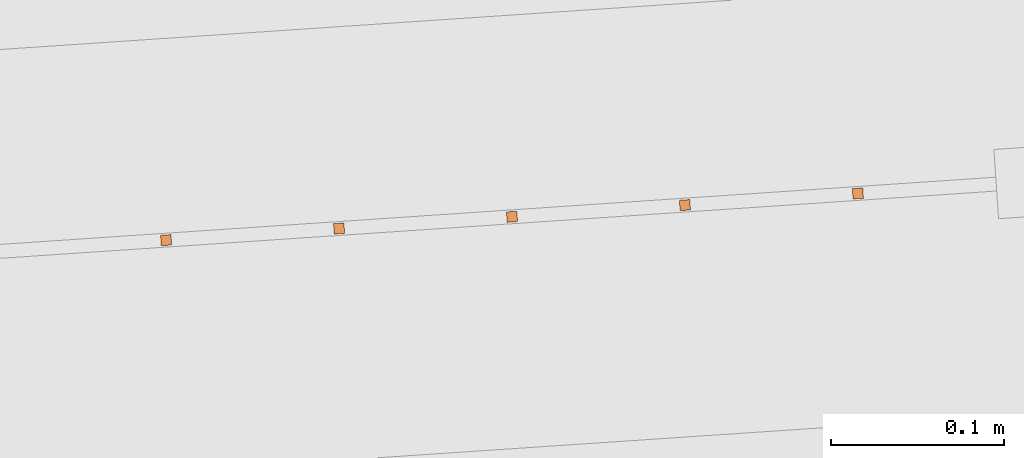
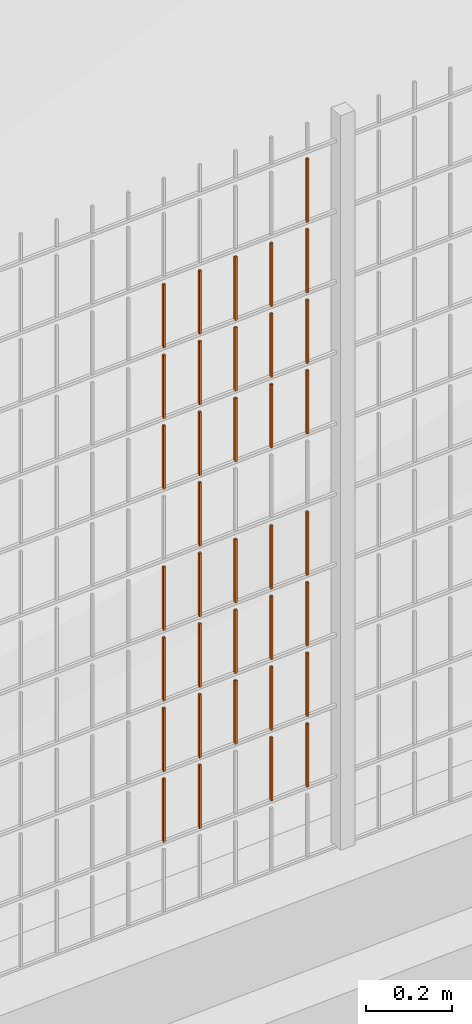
# One storey, part 89 of 1809: 36 proxies, 1 element without a shape of its own.
"""IFC2X3 building model written with IfcOpenShell, lengths in millimetres."""

from ifc_helpers import new_model, entity, si_unit, converted_unit, derived_unit, money_unit, direction, frame, origin_with_axes, place, context, subcontext, project, spatial, faceted_brep, source, transform, mapped, material, type_object, element, aggregate, save


model = new_model("IFC2X3")

# Units and contexts
model_context = context("Model", 3, precision=0.01, world=origin_with_axes(), true_north=direction((0.0, 1.0)))
body_context = subcontext(model_context, "Body", "Model", "MODEL_VIEW")
ifc_project = project(units=[si_unit("LENGTHUNIT", "METRE", prefix="MILLI"), si_unit("AREAUNIT", "SQUARE_METRE"), si_unit("VOLUMEUNIT", "CUBIC_METRE"), converted_unit("PLANEANGLEUNIT", "DEGREE", entity("IfcPlaneAngleMeasure", 0.0174532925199), si_unit("PLANEANGLEUNIT", "RADIAN"), dimensions=[0, 0, 0, 0, 0, 0, 0]), si_unit("SOLIDANGLEUNIT", "STERADIAN"), money_unit("EUR"), converted_unit("TIMEUNIT", "Year", entity("IfcTimeMeasure", 31556926.0), si_unit("TIMEUNIT", "SECOND"), dimensions=[0, 0, 1, 0, 0, 0, 0]), si_unit("MASSUNIT", "GRAM", prefix="KILO"), si_unit("THERMODYNAMICTEMPERATUREUNIT", "DEGREE_CELSIUS"), si_unit("LUMINOUSINTENSITYUNIT", "LUMEN"), si_unit("ENERGYUNIT", "JOULE", prefix="MEGA"), derived_unit("THERMALCONDUCTANCEUNIT", [(si_unit("POWERUNIT", "WATT"), 1), (si_unit("LENGTHUNIT", "METRE"), -1), (si_unit("THERMODYNAMICTEMPERATUREUNIT", "KELVIN"), -1)]), derived_unit("SPECIFICHEATCAPACITYUNIT", [(si_unit("ENERGYUNIT", "JOULE"), 1), (si_unit("MASSUNIT", "GRAM", prefix="KILO"), -1), (si_unit("THERMODYNAMICTEMPERATUREUNIT", "KELVIN"), -1)]), derived_unit("MASSDENSITYUNIT", [(si_unit("MASSUNIT", "GRAM", prefix="KILO"), 1), (si_unit("VOLUMEUNIT", "CUBIC_METRE"), -1)])], contexts=[model_context])

# Site, building, storey
site_placement = place(None, origin_with_axes())
site = spatial("IfcSite", under=ifc_project, at=site_placement, Name="Politse- ja Piirivalveameti ning Päästeameti ühishoone", CompositionType="ELEMENT")
building_placement = place(site_placement, origin_with_axes())
building = spatial("IfcBuilding", under=site, at=building_placement, Name="Politse- ja Piirivalveameti ning Päästeameti ühishoone", CompositionType="ELEMENT")
storey_placement = place(building_placement, origin_with_axes())
storey = spatial("IfcBuildingStorey", under=building, at=storey_placement, Name="Esimene korrus", CompositionType="ELEMENT", Elevation=0.0)

# Proxies
building_element_proxy_type_1 = type_object("IfcBuildingElementProxyType", Name="Railing Type", PredefinedType="NOTDEFINED")
proxy_1_placement = place(storey_placement, frame((89252.001212, -29183.4766571, 203.661247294), z_axis=(0.0, 0.0, 1.0), x_axis=(1.0, 0.0, 0.0)))
proxy_1 = element("IfcBuildingElementProxy", 1, at=proxy_1_placement, inside=storey, type_object=building_element_proxy_type_1, Name="PIIRDEAED")
ifc_material = material(Name="ET-03_Raud")
building_element_proxy_type_2 = type_object("IfcBuildingElementProxyType", Name="IfcBuildingElementProxy", PredefinedType="NOTDEFINED")
shared_shape_1 = source(origin_with_axes(), body_context, "Body", "Brep", [
    faceted_brep([(3.0, 3.0, -0.000752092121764), (-3.0, 3.0, -0.000752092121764), (-3.0, 3.0, 179.99926046), (3.0, 3.0, 179.99926046), (3.0, -3.0, 0.000752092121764), (-3.0, -3.0, 0.000752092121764), (-3.0, -3.0, 180.000764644), (3.0, -3.0, 180.000764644)], [[[0, 1, 2, 3]], [[0, 4, 5, 1]], [[1, 5, 6, 2]], [[3, 2, 6, 7]], [[4, 0, 3, 7]], [[5, 4, 7, 6]]]),
])
proxy_2_placement = place(proxy_1_placement, frame((-99699.5076655, -24032.100252, 1802.18302725), z_axis=(0.0, 0.0, 1.0), x_axis=(1.0, 0.0, 0.0)))
proxy_2 = element("IfcBuildingElementProxy", 2, at=proxy_2_placement, type_object=building_element_proxy_type_2, material=ifc_material, Name="BALUSTER - 001", context=body_context, shape_type="MappedRepresentation", body=[
    mapped(shared_shape_1, transform((0.0, 0.0, 0.0), x_axis=(-0.0673926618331, 0.997726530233, 0.0), y_axis=(-0.997726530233, -0.0673926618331, 0.0), z_axis=(0.0, 0.0, 1.0))),
])
shared_shape_2 = source(origin_with_axes(), body_context, "Body", "Brep", [
    faceted_brep([(3.0, 3.0, -0.000752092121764), (-3.0, 3.0, -0.000752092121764), (-3.0, 3.0, 179.99926046), (3.0, 3.0, 179.99926046), (3.0, -3.0, 0.000752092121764), (-3.0, -3.0, 0.000752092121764), (-3.0, -3.0, 180.000764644), (3.0, -3.0, 180.000764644)], [[[0, 1, 2, 3]], [[0, 4, 5, 1]], [[1, 5, 6, 2]], [[3, 2, 6, 7]], [[4, 0, 3, 7]], [[5, 4, 7, 6]]]),
])
proxy_3_placement = place(proxy_1_placement, frame((-100098.598278, -24059.0573168, 802.082748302), z_axis=(0.0, 0.0, 1.0), x_axis=(1.0, 0.0, 0.0)))
proxy_3 = element("IfcBuildingElementProxy", 3, at=proxy_3_placement, type_object=building_element_proxy_type_2, material=ifc_material, Name="BALUSTER - 001", context=body_context, shape_type="MappedRepresentation", body=[
    mapped(shared_shape_2, transform((0.0, 0.0, 0.0), x_axis=(-0.0673926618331, 0.997726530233, 0.0), y_axis=(-0.997726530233, -0.0673926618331, 0.0), z_axis=(0.0, 0.0, 1.0))),
])
proxy_4_placement = place(proxy_1_placement, frame((-99699.5076655, -24032.100252, 1202.18302725), z_axis=(0.0, 0.0, 1.0), x_axis=(1.0, 0.0, 0.0)))
proxy_4 = element("IfcBuildingElementProxy", 4, at=proxy_4_placement, type_object=building_element_proxy_type_2, material=ifc_material, Name="BALUSTER - 001", context=body_context, shape_type="MappedRepresentation", body=[
    mapped(shared_shape_2, transform((0.0, 0.0, 0.0), x_axis=(-0.0673926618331, 0.997726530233, 0.0), y_axis=(-0.997726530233, -0.0673926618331, 0.0), z_axis=(0.0, 0.0, 1.0))),
])
shared_shape_3 = source(origin_with_axes(), body_context, "Body", "Brep", [
    faceted_brep([(3.0, 3.0, -0.000752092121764), (-3.0, 3.0, -0.000752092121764), (-3.0, 3.0, 179.99926046), (3.0, 3.0, 179.99926046), (3.0, -3.0, 0.000752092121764), (-3.0, -3.0, 0.000752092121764), (-3.0, -3.0, 180.000764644), (3.0, -3.0, 180.000764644)], [[[0, 1, 2, 3]], [[0, 4, 5, 1]], [[1, 5, 6, 2]], [[3, 2, 6, 7]], [[4, 0, 3, 7]], [[5, 4, 7, 6]]]),
])
proxy_5_placement = place(proxy_1_placement, frame((-100098.598278, -24059.0573168, 402.082748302), z_axis=(0.0, 0.0, 1.0), x_axis=(1.0, 0.0, 0.0)))
proxy_5 = element("IfcBuildingElementProxy", 5, at=proxy_5_placement, type_object=building_element_proxy_type_2, material=ifc_material, Name="BALUSTER - 001", context=body_context, shape_type="MappedRepresentation", body=[
    mapped(shared_shape_3, transform((0.0, 0.0, 0.0), x_axis=(-0.0673926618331, 0.997726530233, 0.0), y_axis=(-0.997726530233, -0.0673926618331, 0.0), z_axis=(0.0, 0.0, 1.0))),
])
shared_shape_4 = source(origin_with_axes(), body_context, "Body", "Brep", [
    faceted_brep([(3.0, 3.0, -0.000752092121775), (-3.0, 3.0, -0.000752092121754), (-3.0, 3.0, 179.99926046), (3.0, 3.0, 179.99926046), (3.0, -3.0, 0.000752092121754), (-3.0, -3.0, 0.000752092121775), (-3.0, -3.0, 180.000764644), (3.0, -3.0, 180.000764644)], [[[0, 1, 2, 3]], [[0, 4, 5, 1]], [[1, 5, 6, 2]], [[3, 2, 6, 7]], [[4, 0, 3, 7]], [[5, 4, 7, 6]]]),
])
proxy_6_placement = place(proxy_1_placement, frame((-99799.2803185, -24038.8395182, 202.157957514), z_axis=(0.0, 0.0, 1.0), x_axis=(1.0, 0.0, 0.0)))
proxy_6 = element("IfcBuildingElementProxy", 6, at=proxy_6_placement, type_object=building_element_proxy_type_2, material=ifc_material, Name="BALUSTER - 001", context=body_context, shape_type="MappedRepresentation", body=[
    mapped(shared_shape_4, transform((0.0, 0.0, 0.0), x_axis=(-0.0673926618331, 0.997726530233, 0.0), y_axis=(-0.997726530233, -0.0673926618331, 0.0), z_axis=(0.0, 0.0, 1.0))),
])
proxy_7_placement = place(proxy_1_placement, frame((-99799.2803185, -24038.8395182, 402.157957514), z_axis=(0.0, 0.0, 1.0), x_axis=(1.0, 0.0, 0.0)))
proxy_7 = element("IfcBuildingElementProxy", 7, at=proxy_7_placement, type_object=building_element_proxy_type_2, material=ifc_material, Name="BALUSTER - 001", context=body_context, shape_type="MappedRepresentation", body=[
    mapped(shared_shape_4, transform((0.0, 0.0, 0.0), x_axis=(-0.0673926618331, 0.997726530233, 0.0), y_axis=(-0.997726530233, -0.0673926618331, 0.0), z_axis=(0.0, 0.0, 1.0))),
])
shared_shape_5 = source(origin_with_axes(), body_context, "Body", "Brep", [
    faceted_brep([(3.0, 3.0, -0.000752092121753), (-3.0, 3.0, -0.000752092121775), (-3.0, 3.0, 179.99926046), (3.0, 3.0, 179.99926046), (3.0, -3.0, 0.000752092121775), (-3.0, -3.0, 0.000752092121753), (-3.0, -3.0, 180.000764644), (3.0, -3.0, 180.000764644)], [[[0, 1, 2, 3]], [[0, 4, 5, 1]], [[1, 5, 6, 2]], [[3, 2, 6, 7]], [[4, 0, 3, 7]], [[5, 4, 7, 6]]]),
])
proxy_8_placement = place(proxy_1_placement, frame((-99998.8256245, -24052.3180506, 202.10781804), z_axis=(0.0, 0.0, 1.0), x_axis=(1.0, 0.0, 0.0)))
proxy_8 = element("IfcBuildingElementProxy", 8, at=proxy_8_placement, type_object=building_element_proxy_type_2, material=ifc_material, Name="BALUSTER - 001", context=body_context, shape_type="MappedRepresentation", body=[
    mapped(shared_shape_5, transform((0.0, 0.0, 0.0), x_axis=(-0.0673926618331, 0.997726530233, 0.0), y_axis=(-0.997726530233, -0.0673926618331, 0.0), z_axis=(0.0, 0.0, 1.0))),
])
shared_shape_6 = source(origin_with_axes(), body_context, "Body", "Brep", [
    faceted_brep([(3.0, 3.0, -0.000752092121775), (-3.0, 3.0, -0.000752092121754), (-3.0, 3.0, 179.99926046), (3.0, 3.0, 179.99926046), (3.0, -3.0, 0.000752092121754), (-3.0, -3.0, 0.000752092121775), (-3.0, -3.0, 180.000764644), (3.0, -3.0, 180.000764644)], [[[0, 1, 2, 3]], [[0, 4, 5, 1]], [[1, 5, 6, 2]], [[3, 2, 6, 7]], [[4, 0, 3, 7]], [[5, 4, 7, 6]]]),
])
proxy_9_placement = place(proxy_1_placement, frame((-99799.2803185, -24038.8395182, 602.157957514), z_axis=(0.0, 0.0, 1.0), x_axis=(1.0, 0.0, 0.0)))
proxy_9 = element("IfcBuildingElementProxy", 9, at=proxy_9_placement, type_object=building_element_proxy_type_2, material=ifc_material, Name="BALUSTER - 001", context=body_context, shape_type="MappedRepresentation", body=[
    mapped(shared_shape_6, transform((0.0, 0.0, 0.0), x_axis=(-0.0673926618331, 0.997726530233, 0.0), y_axis=(-0.997726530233, -0.0673926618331, 0.0), z_axis=(0.0, 0.0, 1.0))),
])
shared_shape_7 = source(origin_with_axes(), body_context, "Body", "Brep", [
    faceted_brep([(3.0, 3.0, -0.000752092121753), (-3.0, 3.0, -0.000752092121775), (-3.0, 3.0, 179.99926046), (3.0, 3.0, 179.99926046), (3.0, -3.0, 0.000752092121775), (-3.0, -3.0, 0.000752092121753), (-3.0, -3.0, 180.000764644), (3.0, -3.0, 180.000764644)], [[[0, 1, 2, 3]], [[0, 4, 5, 1]], [[1, 5, 6, 2]], [[3, 2, 6, 7]], [[4, 0, 3, 7]], [[5, 4, 7, 6]]]),
])
proxy_10_placement = place(proxy_1_placement, frame((-99699.5076655, -24032.100252, 402.183027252), z_axis=(0.0, 0.0, 1.0), x_axis=(1.0, 0.0, 0.0)))
proxy_10 = element("IfcBuildingElementProxy", 10, at=proxy_10_placement, type_object=building_element_proxy_type_2, material=ifc_material, Name="BALUSTER - 001", context=body_context, shape_type="MappedRepresentation", body=[
    mapped(shared_shape_7, transform((0.0, 0.0, 0.0), x_axis=(-0.0673926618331, 0.997726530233, 0.0), y_axis=(-0.997726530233, -0.0673926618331, 0.0), z_axis=(0.0, 0.0, 1.0))),
])
shared_shape_8 = source(origin_with_axes(), body_context, "Body", "Brep", [
    faceted_brep([(3.0, 3.0, -0.000752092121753), (-3.0, 3.0, -0.000752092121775), (-3.0, 3.0, 179.99926046), (3.0, 3.0, 179.99926046), (3.0, -3.0, 0.000752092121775), (-3.0, -3.0, 0.000752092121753), (-3.0, -3.0, 180.000764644), (3.0, -3.0, 180.000764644)], [[[0, 1, 2, 3]], [[0, 4, 5, 1]], [[1, 5, 6, 2]], [[3, 2, 6, 7]], [[4, 0, 3, 7]], [[5, 4, 7, 6]]]),
])
proxy_11_placement = place(proxy_1_placement, frame((-99998.8256245, -24052.3180506, 802.10781804), z_axis=(0.0, 0.0, 1.0), x_axis=(1.0, 0.0, 0.0)))
proxy_11 = element("IfcBuildingElementProxy", 11, at=proxy_11_placement, type_object=building_element_proxy_type_2, material=ifc_material, Name="BALUSTER - 001", context=body_context, shape_type="MappedRepresentation", body=[
    mapped(shared_shape_8, transform((0.0, 0.0, 0.0), x_axis=(-0.0673926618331, 0.997726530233, 0.0), y_axis=(-0.997726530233, -0.0673926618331, 0.0), z_axis=(0.0, 0.0, 1.0))),
])
shared_shape_9 = source(origin_with_axes(), body_context, "Body", "Brep", [
    faceted_brep([(3.0, 3.0, -0.000752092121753), (-3.0, 3.0, -0.000752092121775), (-3.0, 3.0, 179.99926046), (3.0, 3.0, 179.99926046), (3.0, -3.0, 0.000752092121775), (-3.0, -3.0, 0.000752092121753), (-3.0, -3.0, 180.000764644), (3.0, -3.0, 180.000764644)], [[[0, 1, 2, 3]], [[0, 4, 5, 1]], [[1, 5, 6, 2]], [[3, 2, 6, 7]], [[4, 0, 3, 7]], [[5, 4, 7, 6]]]),
])
proxy_12_placement = place(proxy_1_placement, frame((-99699.5076655, -24032.100252, 802.183027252), z_axis=(0.0, 0.0, 1.0), x_axis=(1.0, 0.0, 0.0)))
proxy_12 = element("IfcBuildingElementProxy", 12, at=proxy_12_placement, type_object=building_element_proxy_type_2, material=ifc_material, Name="BALUSTER - 001", context=body_context, shape_type="MappedRepresentation", body=[
    mapped(shared_shape_9, transform((0.0, 0.0, 0.0), x_axis=(-0.0673926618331, 0.997726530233, 0.0), y_axis=(-0.997726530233, -0.0673926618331, 0.0), z_axis=(0.0, 0.0, 1.0))),
])
shared_shape_10 = source(origin_with_axes(), body_context, "Body", "Brep", [
    faceted_brep([(3.0, 3.0, -0.000752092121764), (-3.0, 3.0, -0.000752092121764), (-3.0, 3.0, 179.99926046), (3.0, 3.0, 179.99926046), (3.0, -3.0, 0.000752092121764), (-3.0, -3.0, 0.000752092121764), (-3.0, -3.0, 180.000764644), (3.0, -3.0, 180.000764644)], [[[0, 1, 2, 3]], [[0, 4, 5, 1]], [[1, 5, 6, 2]], [[3, 2, 6, 7]], [[4, 0, 3, 7]], [[5, 4, 7, 6]]]),
])
proxy_13_placement = place(proxy_1_placement, frame((-99699.5076655, -24032.100252, 1402.18302725), z_axis=(0.0, 0.0, 1.0), x_axis=(1.0, 0.0, 0.0)))
proxy_13 = element("IfcBuildingElementProxy", 13, at=proxy_13_placement, type_object=building_element_proxy_type_2, material=ifc_material, Name="BALUSTER - 001", context=body_context, shape_type="MappedRepresentation", body=[
    mapped(shared_shape_10, transform((0.0, 0.0, 0.0), x_axis=(-0.0673926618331, 0.997726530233, 0.0), y_axis=(-0.997726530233, -0.0673926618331, 0.0), z_axis=(0.0, 0.0, 1.0))),
])
proxy_14_placement = place(proxy_1_placement, frame((-99699.5076655, -24032.100252, 1602.18302725), z_axis=(0.0, 0.0, 1.0), x_axis=(1.0, 0.0, 0.0)))
proxy_14 = element("IfcBuildingElementProxy", 14, at=proxy_14_placement, type_object=building_element_proxy_type_2, material=ifc_material, Name="BALUSTER - 001", context=body_context, shape_type="MappedRepresentation", body=[
    mapped(shared_shape_10, transform((0.0, 0.0, 0.0), x_axis=(-0.0673926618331, 0.997726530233, 0.0), y_axis=(-0.997726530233, -0.0673926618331, 0.0), z_axis=(0.0, 0.0, 1.0))),
])
shared_shape_11 = source(origin_with_axes(), body_context, "Body", "Brep", [
    faceted_brep([(3.0, 3.0, -0.000752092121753), (-3.0, 3.0, -0.000752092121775), (-3.0, 3.0, 179.99926046), (3.0, 3.0, 179.99926046), (3.0, -3.0, 0.000752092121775), (-3.0, -3.0, 0.000752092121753), (-3.0, -3.0, 180.000764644), (3.0, -3.0, 180.000764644)], [[[0, 1, 2, 3]], [[0, 4, 5, 1]], [[1, 5, 6, 2]], [[3, 2, 6, 7]], [[4, 0, 3, 7]], [[5, 4, 7, 6]]]),
])
proxy_15_placement = place(proxy_1_placement, frame((-99998.8256245, -24052.3180506, 602.10781804), z_axis=(0.0, 0.0, 1.0), x_axis=(1.0, 0.0, 0.0)))
proxy_15 = element("IfcBuildingElementProxy", 15, at=proxy_15_placement, type_object=building_element_proxy_type_2, material=ifc_material, Name="BALUSTER - 001", context=body_context, shape_type="MappedRepresentation", body=[
    mapped(shared_shape_11, transform((0.0, 0.0, 0.0), x_axis=(-0.0673926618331, 0.997726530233, 0.0), y_axis=(-0.997726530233, -0.0673926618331, 0.0), z_axis=(0.0, 0.0, 1.0))),
])
shared_shape_12 = source(origin_with_axes(), body_context, "Body", "Brep", [
    faceted_brep([(3.0, 3.0, -0.000752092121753), (-3.0, 3.0, -0.000752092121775), (-3.0, 3.0, 179.99926046), (3.0, 3.0, 179.99926046), (3.0, -3.0, 0.000752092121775), (-3.0, -3.0, 0.000752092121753), (-3.0, -3.0, 180.000764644), (3.0, -3.0, 180.000764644)], [[[0, 1, 2, 3]], [[0, 4, 5, 1]], [[1, 5, 6, 2]], [[3, 2, 6, 7]], [[4, 0, 3, 7]], [[5, 4, 7, 6]]]),
])
proxy_16_placement = place(proxy_1_placement, frame((-99998.8256245, -24052.3180506, 1202.10781804), z_axis=(0.0, 0.0, 1.0), x_axis=(1.0, 0.0, 0.0)))
proxy_16 = element("IfcBuildingElementProxy", 16, at=proxy_16_placement, type_object=building_element_proxy_type_2, material=ifc_material, Name="BALUSTER - 001", context=body_context, shape_type="MappedRepresentation", body=[
    mapped(shared_shape_12, transform((0.0, 0.0, 0.0), x_axis=(-0.0673926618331, 0.997726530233, 0.0), y_axis=(-0.997726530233, -0.0673926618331, 0.0), z_axis=(0.0, 0.0, 1.0))),
])
shared_shape_13 = source(origin_with_axes(), body_context, "Body", "Brep", [
    faceted_brep([(3.0, 3.0, -0.000752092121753), (-3.0, 3.0, -0.000752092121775), (-3.0, 3.0, 179.99926046), (3.0, 3.0, 179.99926046), (3.0, -3.0, 0.000752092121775), (-3.0, -3.0, 0.000752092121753), (-3.0, -3.0, 180.000764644), (3.0, -3.0, 180.000764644)], [[[0, 1, 2, 3]], [[0, 4, 5, 1]], [[1, 5, 6, 2]], [[3, 2, 6, 7]], [[4, 0, 3, 7]], [[5, 4, 7, 6]]]),
])
proxy_17_placement = place(proxy_1_placement, frame((-99699.5076655, -24032.100252, 202.183027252), z_axis=(0.0, 0.0, 1.0), x_axis=(1.0, 0.0, 0.0)))
proxy_17 = element("IfcBuildingElementProxy", 17, at=proxy_17_placement, type_object=building_element_proxy_type_2, material=ifc_material, Name="BALUSTER - 001", context=body_context, shape_type="MappedRepresentation", body=[
    mapped(shared_shape_13, transform((0.0, 0.0, 0.0), x_axis=(-0.0673926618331, 0.997726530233, 0.0), y_axis=(-0.997726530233, -0.0673926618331, 0.0), z_axis=(0.0, 0.0, 1.0))),
])
proxy_18_placement = place(proxy_1_placement, frame((-99699.5076655, -24032.100252, 602.183027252), z_axis=(0.0, 0.0, 1.0), x_axis=(1.0, 0.0, 0.0)))
proxy_18 = element("IfcBuildingElementProxy", 18, at=proxy_18_placement, type_object=building_element_proxy_type_2, material=ifc_material, Name="BALUSTER - 001", context=body_context, shape_type="MappedRepresentation", body=[
    mapped(shared_shape_13, transform((0.0, 0.0, 0.0), x_axis=(-0.0673926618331, 0.997726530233, 0.0), y_axis=(-0.997726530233, -0.0673926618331, 0.0), z_axis=(0.0, 0.0, 1.0))),
])
shared_shape_14 = source(origin_with_axes(), body_context, "Body", "Brep", [
    faceted_brep([(3.0, 3.0, -0.000752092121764), (-3.0, 3.0, -0.000752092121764), (-3.0, 3.0, 179.99926046), (3.0, 3.0, 179.99926046), (3.0, -3.0, 0.000752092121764), (-3.0, -3.0, 0.000752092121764), (-3.0, -3.0, 180.000764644), (3.0, -3.0, 180.000764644)], [[[0, 1, 2, 3]], [[0, 4, 5, 1]], [[1, 5, 6, 2]], [[3, 2, 6, 7]], [[4, 0, 3, 7]], [[5, 4, 7, 6]]]),
])
proxy_19_placement = place(proxy_1_placement, frame((-100098.598278, -24059.0573168, 602.082748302), z_axis=(0.0, 0.0, 1.0), x_axis=(1.0, 0.0, 0.0)))
proxy_19 = element("IfcBuildingElementProxy", 19, at=proxy_19_placement, type_object=building_element_proxy_type_2, material=ifc_material, Name="BALUSTER - 001", context=body_context, shape_type="MappedRepresentation", body=[
    mapped(shared_shape_14, transform((0.0, 0.0, 0.0), x_axis=(-0.0673926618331, 0.997726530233, 0.0), y_axis=(-0.997726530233, -0.0673926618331, 0.0), z_axis=(0.0, 0.0, 1.0))),
])
shared_shape_15 = source(origin_with_axes(), body_context, "Body", "Brep", [
    faceted_brep([(3.0, 3.0, -0.000752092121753), (-3.0, 3.0, -0.000752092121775), (-3.0, 3.0, 179.99926046), (3.0, 3.0, 179.99926046), (3.0, -3.0, 0.000752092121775), (-3.0, -3.0, 0.000752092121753), (-3.0, -3.0, 180.000764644), (3.0, -3.0, 180.000764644)], [[[0, 1, 2, 3]], [[0, 4, 5, 1]], [[1, 5, 6, 2]], [[3, 2, 6, 7]], [[4, 0, 3, 7]], [[5, 4, 7, 6]]]),
])
proxy_20_placement = place(proxy_1_placement, frame((-99998.8256245, -24052.3180506, 1402.10781804), z_axis=(0.0, 0.0, 1.0), x_axis=(1.0, 0.0, 0.0)))
proxy_20 = element("IfcBuildingElementProxy", 20, at=proxy_20_placement, type_object=building_element_proxy_type_2, material=ifc_material, Name="BALUSTER - 001", context=body_context, shape_type="MappedRepresentation", body=[
    mapped(shared_shape_15, transform((0.0, 0.0, 0.0), x_axis=(-0.0673926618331, 0.997726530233, 0.0), y_axis=(-0.997726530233, -0.0673926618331, 0.0), z_axis=(0.0, 0.0, 1.0))),
])
proxy_21_placement = place(proxy_1_placement, frame((-99998.8256245, -24052.3180506, 1602.10781804), z_axis=(0.0, 0.0, 1.0), x_axis=(1.0, 0.0, 0.0)))
proxy_21 = element("IfcBuildingElementProxy", 21, at=proxy_21_placement, type_object=building_element_proxy_type_2, material=ifc_material, Name="BALUSTER - 001", context=body_context, shape_type="MappedRepresentation", body=[
    mapped(shared_shape_15, transform((0.0, 0.0, 0.0), x_axis=(-0.0673926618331, 0.997726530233, 0.0), y_axis=(-0.997726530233, -0.0673926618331, 0.0), z_axis=(0.0, 0.0, 1.0))),
])
shared_shape_16 = source(origin_with_axes(), body_context, "Body", "Brep", [
    faceted_brep([(3.0, 3.0, -0.000752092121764), (-3.0, 3.0, -0.000752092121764), (-3.0, 3.0, 179.99926046), (3.0, 3.0, 179.99926046), (3.0, -3.0, 0.000752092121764), (-3.0, -3.0, 0.000752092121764), (-3.0, -3.0, 180.000764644), (3.0, -3.0, 180.000764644)], [[[0, 1, 2, 3]], [[0, 4, 5, 1]], [[1, 5, 6, 2]], [[3, 2, 6, 7]], [[4, 0, 3, 7]], [[5, 4, 7, 6]]]),
])
proxy_22_placement = place(proxy_1_placement, frame((-100098.598278, -24059.0573168, 202.082748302), z_axis=(0.0, 0.0, 1.0), x_axis=(1.0, 0.0, 0.0)))
proxy_22 = element("IfcBuildingElementProxy", 22, at=proxy_22_placement, type_object=building_element_proxy_type_2, material=ifc_material, Name="BALUSTER - 001", context=body_context, shape_type="MappedRepresentation", body=[
    mapped(shared_shape_16, transform((0.0, 0.0, 0.0), x_axis=(-0.0673926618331, 0.997726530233, 0.0), y_axis=(-0.997726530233, -0.0673926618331, 0.0), z_axis=(0.0, 0.0, 1.0))),
])
shared_shape_17 = source(origin_with_axes(), body_context, "Body", "Brep", [
    faceted_brep([(3.0, 3.0, -0.000752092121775), (-3.0, 3.0, -0.000752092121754), (-3.0, 3.0, 179.99926046), (3.0, 3.0, 179.99926046), (3.0, -3.0, 0.000752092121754), (-3.0, -3.0, 0.000752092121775), (-3.0, -3.0, 180.000764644), (3.0, -3.0, 180.000764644)], [[[0, 1, 2, 3]], [[0, 4, 5, 1]], [[1, 5, 6, 2]], [[3, 2, 6, 7]], [[4, 0, 3, 7]], [[5, 4, 7, 6]]]),
])
proxy_23_placement = place(proxy_1_placement, frame((-99799.2803185, -24038.8395182, 802.157957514), z_axis=(0.0, 0.0, 1.0), x_axis=(1.0, 0.0, 0.0)))
proxy_23 = element("IfcBuildingElementProxy", 23, at=proxy_23_placement, type_object=building_element_proxy_type_2, material=ifc_material, Name="BALUSTER - 001", context=body_context, shape_type="MappedRepresentation", body=[
    mapped(shared_shape_17, transform((0.0, 0.0, 0.0), x_axis=(-0.0673926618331, 0.997726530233, 0.0), y_axis=(-0.997726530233, -0.0673926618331, 0.0), z_axis=(0.0, 0.0, 1.0))),
])
proxy_24_placement = place(proxy_1_placement, frame((-99799.2803185, -24038.8395182, 1202.15795751), z_axis=(0.0, 0.0, 1.0), x_axis=(1.0, 0.0, 0.0)))
proxy_24 = element("IfcBuildingElementProxy", 24, at=proxy_24_placement, type_object=building_element_proxy_type_2, material=ifc_material, Name="BALUSTER - 001", context=body_context, shape_type="MappedRepresentation", body=[
    mapped(shared_shape_17, transform((0.0, 0.0, 0.0), x_axis=(-0.0673926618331, 0.997726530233, 0.0), y_axis=(-0.997726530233, -0.0673926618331, 0.0), z_axis=(0.0, 0.0, 1.0))),
])
proxy_25_placement = place(proxy_1_placement, frame((-99899.0529715, -24045.5787844, 1202.13288778), z_axis=(0.0, 0.0, 1.0), x_axis=(1.0, 0.0, 0.0)))
proxy_25 = element("IfcBuildingElementProxy", 25, at=proxy_25_placement, type_object=building_element_proxy_type_2, material=ifc_material, Name="BALUSTER - 001", context=body_context, shape_type="MappedRepresentation", body=[
    mapped(shared_shape_17, transform((0.0, 0.0, 0.0), x_axis=(-0.0673926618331, 0.997726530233, 0.0), y_axis=(-0.997726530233, -0.0673926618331, 0.0), z_axis=(0.0, 0.0, 1.0))),
])
shared_shape_18 = source(origin_with_axes(), body_context, "Body", "Brep", [
    faceted_brep([(3.0, 3.0, -0.000752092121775), (-3.0, 3.0, -0.000752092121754), (-3.0, 3.0, 179.99926046), (3.0, 3.0, 179.99926046), (3.0, -3.0, 0.000752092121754), (-3.0, -3.0, 0.000752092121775), (-3.0, -3.0, 180.000764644), (3.0, -3.0, 180.000764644)], [[[0, 1, 2, 3]], [[0, 4, 5, 1]], [[1, 5, 6, 2]], [[3, 2, 6, 7]], [[4, 0, 3, 7]], [[5, 4, 7, 6]]]),
])
proxy_26_placement = place(proxy_1_placement, frame((-99799.2803185, -24038.8395182, 1402.15795751), z_axis=(0.0, 0.0, 1.0), x_axis=(1.0, 0.0, 0.0)))
proxy_26 = element("IfcBuildingElementProxy", 26, at=proxy_26_placement, type_object=building_element_proxy_type_2, material=ifc_material, Name="BALUSTER - 001", context=body_context, shape_type="MappedRepresentation", body=[
    mapped(shared_shape_18, transform((0.0, 0.0, 0.0), x_axis=(-0.0673926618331, 0.997726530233, 0.0), y_axis=(-0.997726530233, -0.0673926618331, 0.0), z_axis=(0.0, 0.0, 1.0))),
])
proxy_27_placement = place(proxy_1_placement, frame((-99899.0529715, -24045.5787844, 1402.13288778), z_axis=(0.0, 0.0, 1.0), x_axis=(1.0, 0.0, 0.0)))
proxy_27 = element("IfcBuildingElementProxy", 27, at=proxy_27_placement, type_object=building_element_proxy_type_2, material=ifc_material, Name="BALUSTER - 001", context=body_context, shape_type="MappedRepresentation", body=[
    mapped(shared_shape_18, transform((0.0, 0.0, 0.0), x_axis=(-0.0673926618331, 0.997726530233, 0.0), y_axis=(-0.997726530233, -0.0673926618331, 0.0), z_axis=(0.0, 0.0, 1.0))),
])
proxy_28_placement = place(proxy_1_placement, frame((-99799.2803185, -24038.8395182, 1602.15795751), z_axis=(0.0, 0.0, 1.0), x_axis=(1.0, 0.0, 0.0)))
proxy_28 = element("IfcBuildingElementProxy", 28, at=proxy_28_placement, type_object=building_element_proxy_type_2, material=ifc_material, Name="BALUSTER - 001", context=body_context, shape_type="MappedRepresentation", body=[
    mapped(shared_shape_18, transform((0.0, 0.0, 0.0), x_axis=(-0.0673926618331, 0.997726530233, 0.0), y_axis=(-0.997726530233, -0.0673926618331, 0.0), z_axis=(0.0, 0.0, 1.0))),
])
proxy_29_placement = place(proxy_1_placement, frame((-99899.0529715, -24045.5787844, 1602.13288778), z_axis=(0.0, 0.0, 1.0), x_axis=(1.0, 0.0, 0.0)))
proxy_29 = element("IfcBuildingElementProxy", 29, at=proxy_29_placement, type_object=building_element_proxy_type_2, material=ifc_material, Name="BALUSTER - 001", context=body_context, shape_type="MappedRepresentation", body=[
    mapped(shared_shape_18, transform((0.0, 0.0, 0.0), x_axis=(-0.0673926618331, 0.997726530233, 0.0), y_axis=(-0.997726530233, -0.0673926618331, 0.0), z_axis=(0.0, 0.0, 1.0))),
])
shared_shape_19 = source(origin_with_axes(), body_context, "Body", "Brep", [
    faceted_brep([(3.0, 3.0, -0.000752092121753), (-3.0, 3.0, -0.000752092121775), (-3.0, 3.0, 179.99926046), (3.0, 3.0, 179.99926046), (3.0, -3.0, 0.000752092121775), (-3.0, -3.0, 0.000752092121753), (-3.0, -3.0, 180.000764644), (3.0, -3.0, 180.000764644)], [[[0, 1, 2, 3]], [[0, 4, 5, 1]], [[1, 5, 6, 2]], [[3, 2, 6, 7]], [[4, 0, 3, 7]], [[5, 4, 7, 6]]]),
])
proxy_30_placement = place(proxy_1_placement, frame((-100098.598278, -24059.0573168, 1202.0827483), z_axis=(0.0, 0.0, 1.0), x_axis=(1.0, 0.0, 0.0)))
proxy_30 = element("IfcBuildingElementProxy", 30, at=proxy_30_placement, type_object=building_element_proxy_type_2, material=ifc_material, Name="BALUSTER - 001", context=body_context, shape_type="MappedRepresentation", body=[
    mapped(shared_shape_19, transform((0.0, 0.0, 0.0), x_axis=(-0.0673926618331, 0.997726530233, 0.0), y_axis=(-0.997726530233, -0.0673926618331, 0.0), z_axis=(0.0, 0.0, 1.0))),
])
shared_shape_20 = source(origin_with_axes(), body_context, "Body", "Brep", [
    faceted_brep([(3.0, 3.0, -0.000752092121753), (-3.0, 3.0, -0.000752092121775), (-3.0, 3.0, 179.99926046), (3.0, 3.0, 179.99926046), (3.0, -3.0, 0.000752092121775), (-3.0, -3.0, 0.000752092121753), (-3.0, -3.0, 180.000764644), (3.0, -3.0, 180.000764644)], [[[0, 1, 2, 3]], [[0, 4, 5, 1]], [[1, 5, 6, 2]], [[3, 2, 6, 7]], [[4, 0, 3, 7]], [[5, 4, 7, 6]]]),
])
proxy_31_placement = place(proxy_1_placement, frame((-99998.8256245, -24052.3180506, 402.10781804), z_axis=(0.0, 0.0, 1.0), x_axis=(1.0, 0.0, 0.0)))
proxy_31 = element("IfcBuildingElementProxy", 31, at=proxy_31_placement, type_object=building_element_proxy_type_2, material=ifc_material, Name="BALUSTER - 001", context=body_context, shape_type="MappedRepresentation", body=[
    mapped(shared_shape_20, transform((0.0, 0.0, 0.0), x_axis=(-0.0673926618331, 0.997726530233, 0.0), y_axis=(-0.997726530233, -0.0673926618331, 0.0), z_axis=(0.0, 0.0, 1.0))),
])
shared_shape_21 = source(origin_with_axes(), body_context, "Body", "Brep", [
    faceted_brep([(3.0, 3.0, -0.000752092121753), (-3.0, 3.0, -0.000752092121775), (-3.0, 3.0, 179.99926046), (3.0, 3.0, 179.99926046), (3.0, -3.0, 0.000752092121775), (-3.0, -3.0, 0.000752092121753), (-3.0, -3.0, 180.000764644), (3.0, -3.0, 180.000764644)], [[[0, 1, 2, 3]], [[0, 4, 5, 1]], [[1, 5, 6, 2]], [[3, 2, 6, 7]], [[4, 0, 3, 7]], [[5, 4, 7, 6]]]),
])
proxy_32_placement = place(proxy_1_placement, frame((-100098.598278, -24059.0573168, 1402.0827483), z_axis=(0.0, 0.0, 1.0), x_axis=(1.0, 0.0, 0.0)))
proxy_32 = element("IfcBuildingElementProxy", 32, at=proxy_32_placement, type_object=building_element_proxy_type_2, material=ifc_material, Name="BALUSTER - 001", context=body_context, shape_type="MappedRepresentation", body=[
    mapped(shared_shape_21, transform((0.0, 0.0, 0.0), x_axis=(-0.0673926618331, 0.997726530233, 0.0), y_axis=(-0.997726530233, -0.0673926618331, 0.0), z_axis=(0.0, 0.0, 1.0))),
])
proxy_33_placement = place(proxy_1_placement, frame((-100098.598278, -24059.0573168, 1602.0827483), z_axis=(0.0, 0.0, 1.0), x_axis=(1.0, 0.0, 0.0)))
proxy_33 = element("IfcBuildingElementProxy", 33, at=proxy_33_placement, type_object=building_element_proxy_type_2, material=ifc_material, Name="BALUSTER - 001", context=body_context, shape_type="MappedRepresentation", body=[
    mapped(shared_shape_21, transform((0.0, 0.0, 0.0), x_axis=(-0.0673926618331, 0.997726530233, 0.0), y_axis=(-0.997726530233, -0.0673926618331, 0.0), z_axis=(0.0, 0.0, 1.0))),
])
shared_shape_22 = source(origin_with_axes(), body_context, "Body", "Brep", [
    faceted_brep([(3.0, 3.0, -0.000752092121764), (-3.0, 3.0, -0.000752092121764), (-3.0, 3.0, 179.99926046), (3.0, 3.0, 179.99926046), (3.0, -3.0, 0.000752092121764), (-3.0, -3.0, 0.000752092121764), (-3.0, -3.0, 180.000764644), (3.0, -3.0, 180.000764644)], [[[0, 1, 2, 3]], [[0, 4, 5, 1]], [[1, 5, 6, 2]], [[3, 2, 6, 7]], [[4, 0, 3, 7]], [[5, 4, 7, 6]]]),
])
proxy_34_placement = place(proxy_1_placement, frame((-99899.0529715, -24045.5787844, 402.132887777), z_axis=(0.0, 0.0, 1.0), x_axis=(1.0, 0.0, 0.0)))
proxy_34 = element("IfcBuildingElementProxy", 34, at=proxy_34_placement, type_object=building_element_proxy_type_2, material=ifc_material, Name="BALUSTER - 001", context=body_context, shape_type="MappedRepresentation", body=[
    mapped(shared_shape_22, transform((0.0, 0.0, 0.0), x_axis=(-0.0673926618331, 0.997726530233, 0.0), y_axis=(-0.997726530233, -0.0673926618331, 0.0), z_axis=(0.0, 0.0, 1.0))),
])
proxy_35_placement = place(proxy_1_placement, frame((-99899.0529715, -24045.5787844, 602.132887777), z_axis=(0.0, 0.0, 1.0), x_axis=(1.0, 0.0, 0.0)))
proxy_35 = element("IfcBuildingElementProxy", 35, at=proxy_35_placement, type_object=building_element_proxy_type_2, material=ifc_material, Name="BALUSTER - 001", context=body_context, shape_type="MappedRepresentation", body=[
    mapped(shared_shape_22, transform((0.0, 0.0, 0.0), x_axis=(-0.0673926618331, 0.997726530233, 0.0), y_axis=(-0.997726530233, -0.0673926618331, 0.0), z_axis=(0.0, 0.0, 1.0))),
])
shared_shape_23 = source(origin_with_axes(), body_context, "Body", "Brep", [
    faceted_brep([(3.0, 3.0, -0.000752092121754), (-3.0, 3.0, -0.000752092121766), (-3.00000000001, 3.00000000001, 179.99926046), (2.99999999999, 3.00000000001, 179.99926046), (3.0, -3.0, 0.000752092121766), (-3.0, -3.0, 0.000752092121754), (-3.00000000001, -2.99999999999, 180.000764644), (2.99999999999, -2.99999999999, 180.000764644)], [[[0, 1, 2, 3]], [[0, 4, 5, 1]], [[1, 5, 6, 2]], [[3, 2, 6, 7]], [[4, 0, 3, 7]], [[5, 4, 7, 6]]]),
])
proxy_36_placement = place(proxy_1_placement, frame((-99998.8256245, -24052.3180506, 1002.10781804), z_axis=(0.0, 0.0, 1.0), x_axis=(1.0, 0.0, 0.0)))
proxy_36 = element("IfcBuildingElementProxy", 36, at=proxy_36_placement, type_object=building_element_proxy_type_2, material=ifc_material, Name="BALUSTER - 001", context=body_context, shape_type="MappedRepresentation", body=[
    mapped(shared_shape_23, transform((0.0, 0.0, 0.0), x_axis=(-0.0673926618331, 0.997726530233, 0.0), y_axis=(-0.997726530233, -0.0673926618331, 0.0), z_axis=(0.0, 0.0, 1.0))),
])
shared_shape_24 = source(origin_with_axes(), body_context, "Body", "Brep", [
    faceted_brep([(3.0, 3.0, -0.000752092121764), (-3.0, 3.0, -0.000752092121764), (-3.0, 3.0, 179.99926046), (3.0, 3.0, 179.99926046), (3.0, -3.0, 0.000752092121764), (-3.0, -3.0, 0.000752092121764), (-3.0, -3.0, 180.000764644), (3.0, -3.0, 180.000764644)], [[[0, 1, 2, 3]], [[0, 4, 5, 1]], [[1, 5, 6, 2]], [[3, 2, 6, 7]], [[4, 0, 3, 7]], [[5, 4, 7, 6]]]),
])
proxy_37_placement = place(proxy_1_placement, frame((-99899.0529715, -24045.5787844, 802.132887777), z_axis=(0.0, 0.0, 1.0), x_axis=(1.0, 0.0, 0.0)))
proxy_37 = element("IfcBuildingElementProxy", 37, at=proxy_37_placement, type_object=building_element_proxy_type_2, material=ifc_material, Name="BALUSTER - 001", context=body_context, shape_type="MappedRepresentation", body=[
    mapped(shared_shape_24, transform((0.0, 0.0, 0.0), x_axis=(-0.0673926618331, 0.997726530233, 0.0), y_axis=(-0.997726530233, -0.0673926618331, 0.0), z_axis=(0.0, 0.0, 1.0))),
])
aggregate(proxy_1, [proxy_17, proxy_6, proxy_8, proxy_22, proxy_10, proxy_7, proxy_34, proxy_31, proxy_5, proxy_18, proxy_9, proxy_35, proxy_15, proxy_19, proxy_12, proxy_23, proxy_37, proxy_11, proxy_3, proxy_36, proxy_4, proxy_24, proxy_25, proxy_16, proxy_30, proxy_13, proxy_26, proxy_27, proxy_20, proxy_32, proxy_14, proxy_28, proxy_29, proxy_21, proxy_33, proxy_2])

save(model, "model.ifc")
